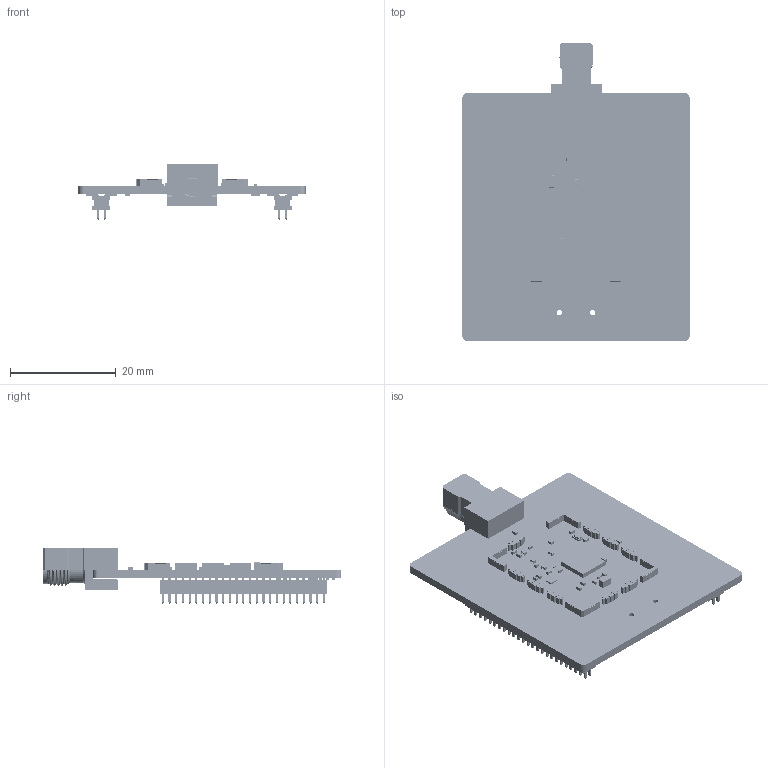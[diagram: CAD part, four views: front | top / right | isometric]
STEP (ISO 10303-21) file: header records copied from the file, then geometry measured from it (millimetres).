
FILE_DESCRIPTION(('Open CASCADE Model'),'2;1');
FILE_NAME('Open CASCADE Shape Model','2025-03-03T10:13:03',('Author'),( 'Open CASCADE'),'Open CASCADE STEP processor 7.5','Open CASCADE 7.5' ,'Unknown');
FILE_SCHEMA(('AUTOMOTIVE_DESIGN { 1 0 10303 214 1 1 1 1 }'));
Length unit declared in the file: millimetre
Products named in the file (129): PCB; Board; Open CASCADE STEP translator 7.5 1.1.1; SB1; R0201; 7223612560; Extruded; L9; Ind_Murata_LQG15HN39NJ02D_eec; 1; 2; Murata Logo 3; 3; SC2; s0981-46; 7223614400; SC13; Shield clip s0951-46; 7223613120; SC12; 7223612880; SC11; SC10; SC9; SB10; R0402; 7222955568; SB7; X1; 7223614080; 7223614000; 7223613920; X2; User Library-NX1612SA; 7222959328; 7222959168; U1; 7222960128; 7222959968; 7222959728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
Assembly tree (190 placements, depth 5):
  PCB
    Board
      Open CASCADE STEP translator 7.5 1.1.1
    SB1
      R0201
      7223612560
        Extruded
    L9
      Ind_Murata_LQG15HN39NJ02D_eec
        1
        2
        Murata Logo 3
        3
    SC2
      s0981-46
      7223614400
        Extruded
    SC13
      Shield clip s0951-46
      7223613120
        Extruded
    SC12
      Shield clip s0951-46
      7223612880
        Extruded
    SC11
      Shield clip s0951-46
      7223612880
        Extruded
    SC10
      Shield clip s0951-46
      7223612880
        Extruded
    SC9
      Shield clip s0951-46
      7223612880
        Extruded
    SB10
      R0402
      7222955568
        Extruded
    SB7
      R0402
      7222955568
        Extruded
    X1
      7223614080
        Extruded
      7223614000
        Extruded
      7223613920
        Extruded
    X2
      User Library-NX1612SA
      7222959328
        Extruded
      7222959168
        Extruded
    U1
      7222960128
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Bounding box: 43 x 56.55 x 10.46 mm (x, y, z)
Volume: 4780.1 mm3; surface area: 8983.1 mm2
Topology: 251 solids, 251 shells, 15223 faces, 39272 edges, 24070 vertices
Faces by surface type: plane 7622, cylinder 3469, bspline 3006, sphere 772, torus 348, cone 6
Full cylindrical faces by diameter (mm): 0.03 x220, 0.5 x2, 0.991 x1, 1 x2, 4.674 x1, 5.08 x1, 5.385 x1
Entity records: 129659 total; most frequent: CARTESIAN_POINT 34582, ORIENTED_EDGE 17898, DIRECTION 16011, EDGE_CURVE 8949, LINE 6645, VECTOR 6645, VERTEX_POINT 5670, AXIS2_PLACEMENT_3D 4683
